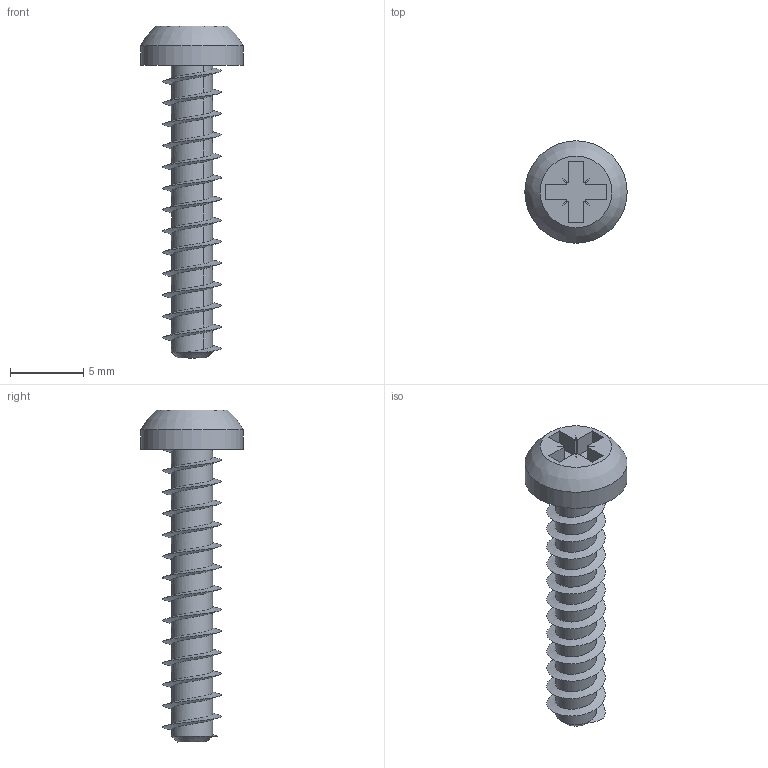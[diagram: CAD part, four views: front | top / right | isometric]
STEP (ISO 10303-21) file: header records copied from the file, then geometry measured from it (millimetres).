
FILE_DESCRIPTION(/* description */ (''),/* implementation_level */ '2;1');
FILE_NAME(/* name */ 'Pan Head Polyfix Plastic Self Tapping Screw - 4mm - 20mm.step',/* time_stamp */ '2025-08-27T20:31:03+03:00',/* author */ (''),/* organization */ (''),/* preprocessor_version */ 'ST-DEVELOPER v20.1',/* originating_system */ 'Autodesk Translation Framework v14.10.0.0',/* authorisation */ '');
FILE_SCHEMA (('AUTOMOTIVE_DESIGN { 1 0 10303 214 3 1 1 }'));
Length unit declared in the file: millimetre
Products named in the file (1): SPP45 BASE
Bounding box: 7 x 7 x 22.7 mm (x, y, z)
Volume: 217.7 mm3; surface area: 457.5 mm2
Topology: 1 solids, 1 shells, 57 faces, 172 edges, 119 vertices
Faces by surface type: plane 37, cylinder 16, bspline 2, sphere 1, cone 1
Full cylindrical faces by diameter (mm): 2.81 x13, 7 x1
Entity records: 9493 total; most frequent: CARTESIAN_POINT 7979, ORIENTED_EDGE 344, DIRECTION 250, EDGE_CURVE 172, VERTEX_POINT 119, LINE 112, VECTOR 112, AXIS2_PLACEMENT_3D 69
